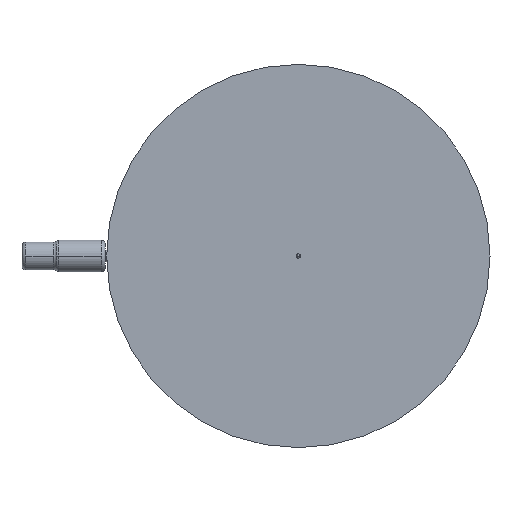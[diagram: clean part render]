
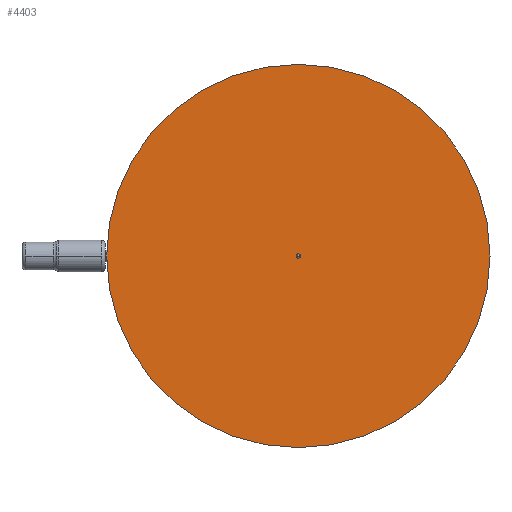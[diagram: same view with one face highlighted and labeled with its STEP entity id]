
A CAD part, front view. The second image highlights one B-rep face of the part: STEP entity #4403.
In plain terms, the highlighted planar face has unit normal (0, -1, 0).
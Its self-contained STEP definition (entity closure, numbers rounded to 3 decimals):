
#3237=CARTESIAN_POINT('',(50.,-15.5,0.));
#3238=VERTEX_POINT('',#3237);
#3254=CARTESIAN_POINT('',(-50.,-15.5,0.));
#3255=VERTEX_POINT('',#3254);
#3262=CARTESIAN_POINT('',(0.0,-15.5,0.));
#3263=DIRECTION('',(0.0,-1.0,0.0));
#3264=DIRECTION('',(1.0,0.0,0.0));
#3265=AXIS2_PLACEMENT_3D('',#3262,#3263,#3264);
#3266=CIRCLE('',#3265,50.);
#3267=EDGE_CURVE('',#3238,#3255,#3266,.T.);
#3897=CARTESIAN_POINT('',(0.55,-15.5,0.));
#3898=VERTEX_POINT('',#3897);
#3905=CARTESIAN_POINT('',(-0.55,-15.5,0.));
#3906=VERTEX_POINT('',#3905);
#3907=CARTESIAN_POINT('',(0.,-15.5,0.));
#3908=DIRECTION('',(0.0,1.0,0.0));
#3909=DIRECTION('',(1.0,0.0,0.0));
#3910=AXIS2_PLACEMENT_3D('',#3907,#3908,#3909);
#3911=CIRCLE('',#3910,0.55);
#3912=EDGE_CURVE('',#3906,#3898,#3911,.T.);
#3938=CARTESIAN_POINT('',(0.,-15.5,0.));
#3939=DIRECTION('',(0.0,1.0,0.0));
#3940=DIRECTION('',(1.0,0.0,0.0));
#3941=AXIS2_PLACEMENT_3D('',#3938,#3939,#3940);
#3942=CIRCLE('',#3941,0.55);
#3943=EDGE_CURVE('',#3898,#3906,#3942,.T.);
#4378=CARTESIAN_POINT('',(0.0,-15.5,0.));
#4379=DIRECTION('',(0.0,-1.0,0.0));
#4380=DIRECTION('',(1.0,0.0,0.0));
#4381=AXIS2_PLACEMENT_3D('',#4378,#4379,#4380);
#4382=CIRCLE('',#4381,50.);
#4383=EDGE_CURVE('',#3255,#3238,#4382,.T.);
#4390=CARTESIAN_POINT('',(25.225,-15.5,0.));
#4391=DIRECTION('',(0.0,-1.0,0.0));
#4392=DIRECTION('',(0.0,0.0,-1.0));
#4393=AXIS2_PLACEMENT_3D('',#4390,#4391,#4392);
#4394=PLANE('',#4393);
#4395=ORIENTED_EDGE('',*,*,#3267,.T.);
#4396=ORIENTED_EDGE('',*,*,#4383,.T.);
#4397=EDGE_LOOP('',(#4395,#4396));
#4398=FACE_OUTER_BOUND('',#4397,.T.);
#4399=ORIENTED_EDGE('',*,*,#3912,.T.);
#4400=ORIENTED_EDGE('',*,*,#3943,.T.);
#4401=EDGE_LOOP('',(#4399,#4400));
#4402=FACE_BOUND('',#4401,.T.);
#4403=ADVANCED_FACE('',(#4398,#4402),#4394,.T.);
